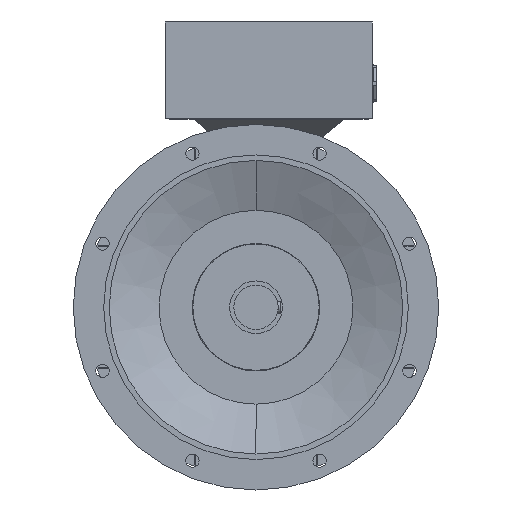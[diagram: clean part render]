
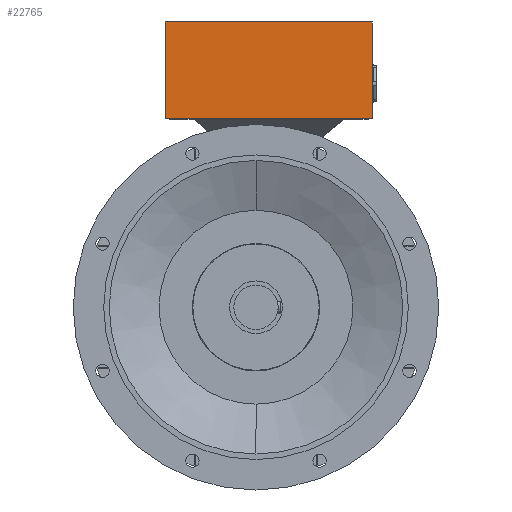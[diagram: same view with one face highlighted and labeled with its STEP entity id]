
A CAD part, left-side view. The second image highlights one B-rep face of the part: STEP entity #22765.
In plain terms, the highlighted planar face has unit normal (-1, 0, 0).
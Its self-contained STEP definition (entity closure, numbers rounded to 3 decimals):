
#5064 = AXIS2_PLACEMENT_3D ( 'NONE', #12262, #12267, #12268 ) ;
#7803 = LINE ( 'NONE', #23638, #7806 ) ;
#7805 = LINE ( 'NONE', #23640, #7808 ) ;
#7806 = VECTOR ( 'NONE', #23639, 1000. ) ;
#7808 = VECTOR ( 'NONE', #23641, 1000. ) ;
#7811 = LINE ( 'NONE', #23648, #7814 ) ;
#7814 = VECTOR ( 'NONE', #23649, 1000. ) ;
#7820 = LINE ( 'NONE', #23663, #7823 ) ;
#7823 = VECTOR ( 'NONE', #23664, 1000. ) ;
#9546 = VERTEX_POINT ( 'NONE', #20101 ) ;
#9578 = VERTEX_POINT ( 'NONE', #20085 ) ;
#9591 = VERTEX_POINT ( 'NONE', #20107 ) ;
#9604 = VERTEX_POINT ( 'NONE', #20117 ) ;
#10709 = FACE_OUTER_BOUND ( 'NONE', #13531, .T. ) ;
#12261 = PLANE ( 'NONE',  #5064 ) ;
#12262 = CARTESIAN_POINT ( 'NONE',  ( -21.5, -23., 427.75 ) ) ;
#12267 = DIRECTION ( 'NONE',  ( 1., 0., 0. ) ) ;
#12268 = DIRECTION ( 'NONE',  ( 0., 0., -1. ) ) ;
#13531 = EDGE_LOOP ( 'NONE', ( #18965, #18964, #18963, #18962 ) ) ;
#16559 = EDGE_CURVE ( 'NONE', #9604, #9591, #7803, .T. ) ;
#16560 = EDGE_CURVE ( 'NONE', #9546, #9591, #7805, .T. ) ;
#16563 = EDGE_CURVE ( 'NONE', #9578, #9604, #7811, .T. ) ;
#16568 = EDGE_CURVE ( 'NONE', #9546, #9578, #7820, .T. ) ;
#18962 = ORIENTED_EDGE ( 'NONE', *, *, #16559, .F. ) ;
#18963 = ORIENTED_EDGE ( 'NONE', *, *, #16560, .T. ) ;
#18964 = ORIENTED_EDGE ( 'NONE', *, *, #16568, .F. ) ;
#18965 = ORIENTED_EDGE ( 'NONE', *, *, #16563, .F. ) ;
#20085 = CARTESIAN_POINT ( 'NONE',  ( -21.5, -210., 515. ) ) ;
#20101 = CARTESIAN_POINT ( 'NONE',  ( -21.5, 164., 515. ) ) ;
#20107 = CARTESIAN_POINT ( 'NONE',  ( -21.5, 164., 340.5 ) ) ;
#20117 = CARTESIAN_POINT ( 'NONE',  ( -21.5, -210., 340.5 ) ) ;
#22765 = ADVANCED_FACE ( 'NONE', ( #10709 ), #12261, .F. ) ;
#23638 = CARTESIAN_POINT ( 'NONE',  ( -21.5, -23., 340.5 ) ) ;
#23639 = DIRECTION ( 'NONE',  ( 0., 1., 0. ) ) ;
#23640 = CARTESIAN_POINT ( 'NONE',  ( -21.5, 164., 427.75 ) ) ;
#23641 = DIRECTION ( 'NONE',  ( 0., 0., -1. ) ) ;
#23648 = CARTESIAN_POINT ( 'NONE',  ( -21.5, -210., 427.75 ) ) ;
#23649 = DIRECTION ( 'NONE',  ( 0., 0., -1. ) ) ;
#23663 = CARTESIAN_POINT ( 'NONE',  ( -21.5, -23., 515. ) ) ;
#23664 = DIRECTION ( 'NONE',  ( 0., -1., 0. ) ) ;
